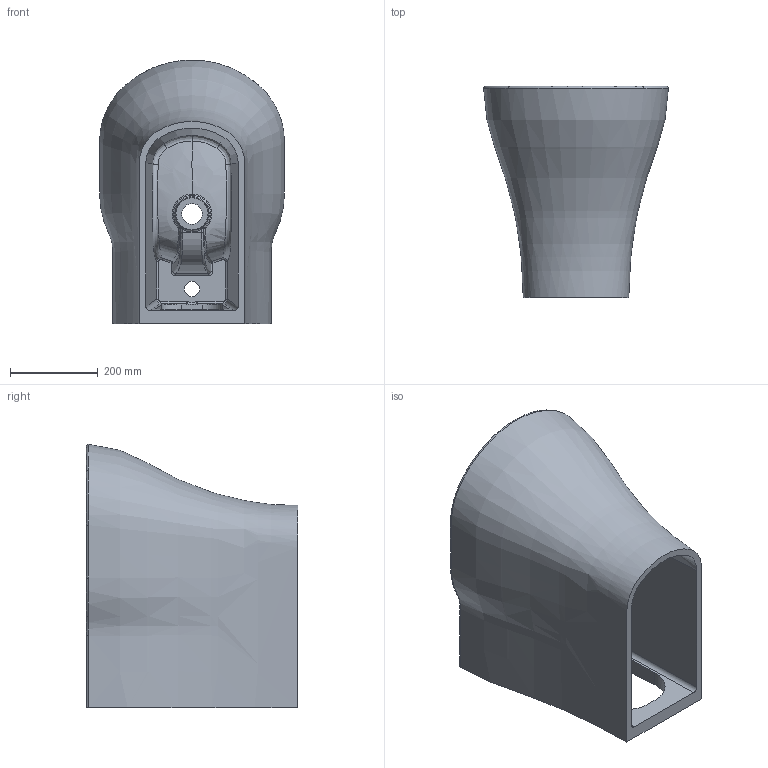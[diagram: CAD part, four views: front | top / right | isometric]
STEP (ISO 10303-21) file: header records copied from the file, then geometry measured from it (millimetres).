
FILE_DESCRIPTION (( 'STEP AP203' ), '1' );
FILE_NAME ('bidet XL.STEP', '2018-12-06T14:51:54', ( '' ), ( '' ), 'SwSTEP 2.0', 'SolidWorks 2019', '' );
FILE_SCHEMA (( 'CONFIG_CONTROL_DESIGN' ));
Length unit declared in the file: millimetre
Products named in the file (1): bidet XL
Bounding box: 419.93 x 480 x 599.21 mm (x, y, z)
Volume: 32837924.6 mm3; surface area: 1536701.8 mm2
Topology: 1 solids, 1 shells, 127 faces, 325 edges, 198 vertices
Faces by surface type: bspline 67, cylinder 21, plane 16, cone 12, sphere 6, torus 5
Entity records: 59649 total; most frequent: CARTESIAN_POINT 56973, ORIENTED_EDGE 646, DIRECTION 422, EDGE_CURVE 323, VERTEX_POINT 198, AXIS2_PLACEMENT_3D 180, EDGE_LOOP 133, FACE_OUTER_BOUND 127
